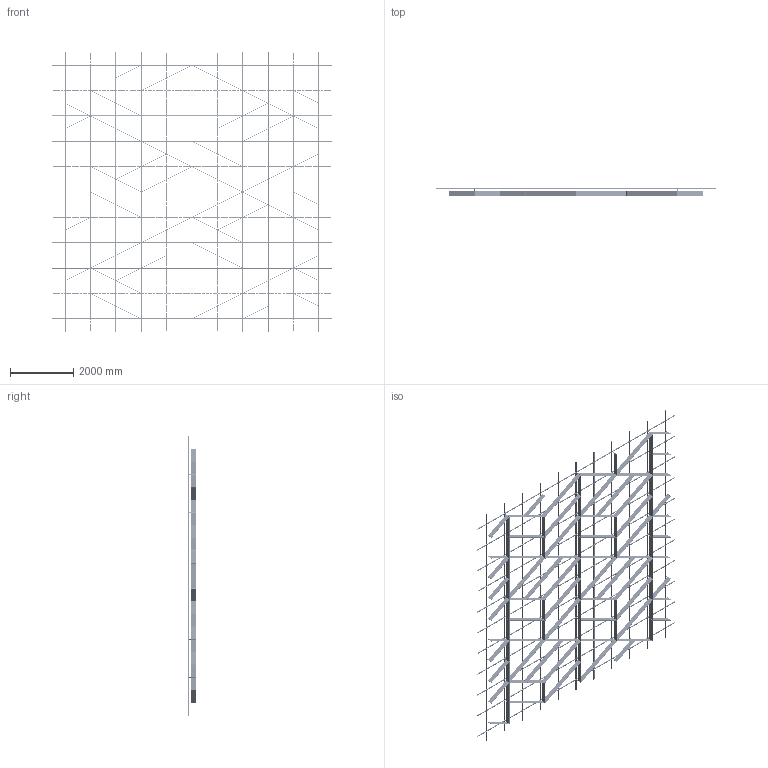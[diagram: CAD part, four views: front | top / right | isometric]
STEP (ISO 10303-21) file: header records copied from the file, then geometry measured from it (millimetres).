
FILE_DESCRIPTION (( 'STEP AP214' ), '1' );
FILE_NAME ('OPT_Var11.STEP', '2024-04-26T06:47:13', ( '' ), ( '' ), 'SwSTEP 2.0', 'SolidWorks 2020', '' );
FILE_SCHEMA (( 'AUTOMOTIVE_DESIGN' ));
Length unit declared in the file: millimetre
Products named in the file (5): SS.SEMA.2400 - Ñèìà-ïðîôèëü; Ñèñòåìà â çîíå 8000õ8000; SS.SEMA.2400 - Ñèìà-ïðîôèëü — îáðåçàí 1600; OPT_Var11; Varp11
Assembly tree (90 placements, depth 3):
  OPT_Var11
    Ñèñòåìà â çîíå 8000õ8000
      SS.SEMA.2400 - Ñèìà-ïðîôèëü  x66
      SS.SEMA.2400 - Ñèìà-ïðîôèëü — îáðåçàí 1600  x22
    Varp11
Bounding box: 8800 x 253 x 8800 mm (x, y, z)
Volume: 164714527.4 mm3; surface area: 71165014.2 mm2
Topology: 533 solids, 533 shells, 19006 faces, 52412 edges, 34472 vertices
Faces by surface type: cylinder 12506, plane 6500
Entity records: 78562 total; most frequent: CARTESIAN_POINT 23332, ORIENTED_EDGE 11672, DIRECTION 7366, EDGE_CURVE 5836, VERTEX_POINT 3880, B_SPLINE_CURVE_WITH_KNOTS 3552, AXIS2_PLACEMENT_3D 3434, EDGE_LOOP 3012
